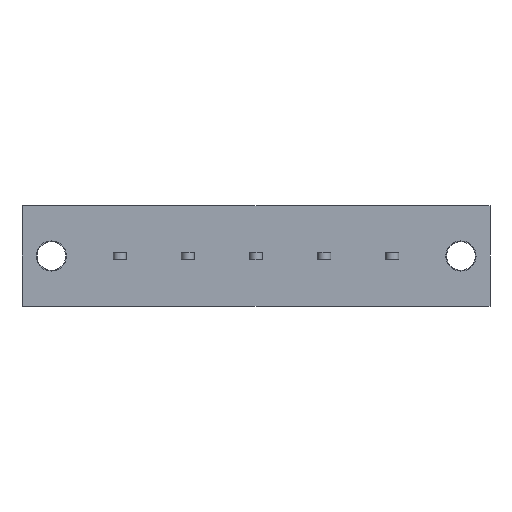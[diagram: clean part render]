
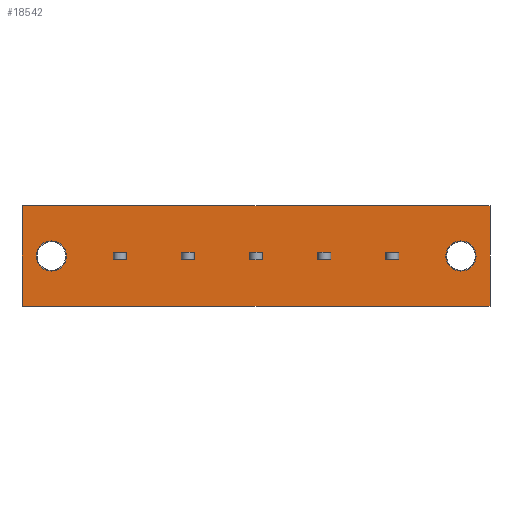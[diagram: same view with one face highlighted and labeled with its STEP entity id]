
A CAD part, front view. The second image highlights one B-rep face of the part: STEP entity #18542.
In plain terms, the highlighted planar face has unit normal (0, -1, 0).
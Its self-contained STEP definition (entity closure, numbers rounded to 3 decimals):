
#969=CIRCLE('',#19720,2.1);
#1014=CIRCLE('',#19888,2.1);
#1055=VERTEX_POINT('',#24074);
#1056=VERTEX_POINT('',#24075);
#1059=VERTEX_POINT('',#24083);
#1092=VERTEX_POINT('',#24167);
#1233=VERTEX_POINT('',#24613);
#1234=VERTEX_POINT('',#24614);
#1237=VERTEX_POINT('',#24622);
#1270=VERTEX_POINT('',#24706);
#1401=VERTEX_POINT('',#25133);
#1402=VERTEX_POINT('',#25134);
#1405=VERTEX_POINT('',#25142);
#1438=VERTEX_POINT('',#25226);
#1824=VERTEX_POINT('',#26465);
#1825=VERTEX_POINT('',#26466);
#1828=VERTEX_POINT('',#26474);
#1840=VERTEX_POINT('',#26513);
#2316=VERTEX_POINT('',#28416);
#2317=VERTEX_POINT('',#28418);
#2321=VERTEX_POINT('',#28428);
#2325=VERTEX_POINT('',#28458);
#2326=VERTEX_POINT('',#28459);
#2329=VERTEX_POINT('',#28467);
#2341=VERTEX_POINT('',#28506);
#2513=VERTEX_POINT('',#28995);
#2514=VERTEX_POINT('',#29034);
#2516=VERTEX_POINT('',#29040);
#2926=VECTOR('',#20116,1.);
#2930=VECTOR('',#20121,1.);
#2965=VECTOR('',#20183,1.);
#2967=VECTOR('',#20186,1.);
#3099=VECTOR('',#20528,1.);
#3103=VECTOR('',#20533,1.);
#3138=VECTOR('',#20595,1.);
#3140=VECTOR('',#20598,1.);
#3267=VECTOR('',#20927,1.);
#3271=VECTOR('',#20932,1.);
#3306=VECTOR('',#20994,1.);
#3308=VECTOR('',#20997,1.);
#3703=VECTOR('',#21910,1.);
#3706=VECTOR('',#21916,1.);
#3722=VECTOR('',#21949,1.);
#3725=VECTOR('',#21957,1.);
#4270=VECTOR('',#22832,1.);
#4287=VECTOR('',#22872,1.);
#4290=VECTOR('',#22878,1.);
#4306=VECTOR('',#22911,1.);
#4309=VECTOR('',#22919,1.);
#4501=VECTOR('',#23277,1.);
#4520=VECTOR('',#23322,1.);
#4523=VECTOR('',#23328,1.);
#4997=LINE('',#24073,#2926);
#5001=LINE('',#24082,#2930);
#5036=LINE('',#24166,#2965);
#5038=LINE('',#24170,#2967);
#5170=LINE('',#24612,#3099);
#5174=LINE('',#24621,#3103);
#5209=LINE('',#24705,#3138);
#5211=LINE('',#24709,#3140);
#5338=LINE('',#25132,#3267);
#5342=LINE('',#25141,#3271);
#5377=LINE('',#25225,#3306);
#5379=LINE('',#25229,#3308);
#5774=LINE('',#26464,#3703);
#5777=LINE('',#26473,#3706);
#5793=LINE('',#26512,#3722);
#5796=LINE('',#26520,#3725);
#6341=LINE('',#28417,#4270);
#6358=LINE('',#28457,#4287);
#6361=LINE('',#28466,#4290);
#6377=LINE('',#28505,#4306);
#6380=LINE('',#28513,#4309);
#6572=LINE('',#28996,#4501);
#6591=LINE('',#29033,#4520);
#6594=LINE('',#29041,#4523);
#7070=EDGE_CURVE('',#1055,#1056,#4997,.T.);
#7074=EDGE_CURVE('',#1059,#1055,#5001,.T.);
#7119=EDGE_CURVE('',#1092,#1059,#5036,.T.);
#7121=EDGE_CURVE('',#1056,#1092,#5038,.T.);
#7322=EDGE_CURVE('',#1233,#1234,#5170,.T.);
#7326=EDGE_CURVE('',#1237,#1233,#5174,.T.);
#7371=EDGE_CURVE('',#1270,#1237,#5209,.T.);
#7373=EDGE_CURVE('',#1234,#1270,#5211,.T.);
#7565=EDGE_CURVE('',#1401,#1402,#5338,.T.);
#7569=EDGE_CURVE('',#1405,#1401,#5342,.T.);
#7614=EDGE_CURVE('',#1438,#1405,#5377,.T.);
#7616=EDGE_CURVE('',#1402,#1438,#5379,.T.);
#8197=EDGE_CURVE('',#1824,#1825,#5774,.T.);
#8201=EDGE_CURVE('',#1825,#1828,#5777,.T.);
#8225=EDGE_CURVE('',#1828,#1840,#5793,.T.);
#8229=EDGE_CURVE('',#1840,#1824,#5796,.T.);
#8932=EDGE_CURVE('',#2317,#2316,#6341,.T.);
#8937=EDGE_CURVE('',#2321,#2321,#969,.T.);
#8952=EDGE_CURVE('',#2325,#2326,#6358,.T.);
#8956=EDGE_CURVE('',#2326,#2329,#6361,.T.);
#8980=EDGE_CURVE('',#2329,#2341,#6377,.T.);
#8984=EDGE_CURVE('',#2341,#2325,#6380,.T.);
#9243=EDGE_CURVE('',#2316,#2513,#6572,.T.);
#9262=EDGE_CURVE('',#2317,#2514,#6591,.T.);
#9265=EDGE_CURVE('',#2516,#2516,#1014,.T.);
#9266=EDGE_CURVE('',#2513,#2514,#6594,.T.);
#14206=ORIENTED_EDGE('',*,*,#7074,.T.);
#14207=ORIENTED_EDGE('',*,*,#7070,.T.);
#14208=ORIENTED_EDGE('',*,*,#7121,.T.);
#14209=ORIENTED_EDGE('',*,*,#7119,.T.);
#14210=ORIENTED_EDGE('',*,*,#7326,.T.);
#14211=ORIENTED_EDGE('',*,*,#7322,.T.);
#14212=ORIENTED_EDGE('',*,*,#7373,.T.);
#14213=ORIENTED_EDGE('',*,*,#7371,.T.);
#14214=ORIENTED_EDGE('',*,*,#7569,.T.);
#14215=ORIENTED_EDGE('',*,*,#7565,.T.);
#14216=ORIENTED_EDGE('',*,*,#7616,.T.);
#14217=ORIENTED_EDGE('',*,*,#7614,.T.);
#14218=ORIENTED_EDGE('',*,*,#8225,.F.);
#14219=ORIENTED_EDGE('',*,*,#8201,.F.);
#14220=ORIENTED_EDGE('',*,*,#8197,.F.);
#14221=ORIENTED_EDGE('',*,*,#8229,.F.);
#14222=ORIENTED_EDGE('',*,*,#8980,.F.);
#14223=ORIENTED_EDGE('',*,*,#8956,.F.);
#14224=ORIENTED_EDGE('',*,*,#8952,.F.);
#14225=ORIENTED_EDGE('',*,*,#8984,.F.);
#14226=ORIENTED_EDGE('',*,*,#8937,.T.);
#14227=ORIENTED_EDGE('',*,*,#9265,.T.);
#14228=ORIENTED_EDGE('',*,*,#9243,.T.);
#14229=ORIENTED_EDGE('',*,*,#9266,.T.);
#14230=ORIENTED_EDGE('',*,*,#9262,.F.);
#14231=ORIENTED_EDGE('',*,*,#8932,.T.);
#16346=EDGE_LOOP('',(#14206,#14207,#14208,#14209));
#16347=EDGE_LOOP('',(#14210,#14211,#14212,#14213));
#16348=EDGE_LOOP('',(#14214,#14215,#14216,#14217));
#16349=EDGE_LOOP('',(#14218,#14219,#14220,#14221));
#16350=EDGE_LOOP('',(#14222,#14223,#14224,#14225));
#16351=EDGE_LOOP('',(#14226));
#16352=EDGE_LOOP('',(#14227));
#16353=EDGE_LOOP('',(#14228,#14229,#14230,#14231));
#17480=FACE_BOUND('',#16346,.T.);
#17481=FACE_BOUND('',#16347,.T.);
#17482=FACE_BOUND('',#16348,.T.);
#17483=FACE_BOUND('',#16349,.T.);
#17484=FACE_BOUND('',#16350,.T.);
#17485=FACE_BOUND('',#16351,.T.);
#17486=FACE_BOUND('',#16352,.T.);
#17487=FACE_BOUND('',#16353,.T.);
#18542=ADVANCED_FACE('',(#17480,#17481,#17482,#17483,#17484,#17485,#17486,
#17487),#31277,.T.);
#19720=AXIS2_PLACEMENT_3D('',#28427,#22840,#22841);
#19887=AXIS2_PLACEMENT_3D('',#29038,#23325,$);
#19888=AXIS2_PLACEMENT_3D('',#29039,#23326,#23327);
#20116=DIRECTION('',(0.,0.,1.));
#20121=DIRECTION('',(-1.,0.,0.));
#20183=DIRECTION('',(0.,0.,-1.));
#20186=DIRECTION('',(1.,0.,0.));
#20528=DIRECTION('',(0.,0.,1.));
#20533=DIRECTION('',(-1.,0.,0.));
#20595=DIRECTION('',(0.,0.,-1.));
#20598=DIRECTION('',(1.,0.,0.));
#20927=DIRECTION('',(0.,0.,1.));
#20932=DIRECTION('',(-1.,0.,0.));
#20994=DIRECTION('',(0.,0.,-1.));
#20997=DIRECTION('',(1.,0.,0.));
#21910=DIRECTION('',(-1.,0.,0.));
#21916=DIRECTION('',(0.,0.,-1.));
#21949=DIRECTION('',(1.,0.,0.));
#21957=DIRECTION('',(0.,0.,1.));
#22832=DIRECTION('',(0.,0.,-1.));
#22840=DIRECTION('',(0.,1.,0.));
#22841=DIRECTION('',(2.1,0.,0.));
#22872=DIRECTION('',(-1.,0.,0.));
#22878=DIRECTION('',(0.,0.,-1.));
#22911=DIRECTION('',(1.,0.,0.));
#22919=DIRECTION('',(0.,0.,1.));
#23277=DIRECTION('',(1.,0.,0.));
#23322=DIRECTION('',(1.,0.,0.));
#23325=DIRECTION('',(0.,-1.,0.));
#23326=DIRECTION('',(0.,1.,0.));
#23327=DIRECTION('',(2.1,0.,0.));
#23328=DIRECTION('',(0.,0.,1.));
#24073=CARTESIAN_POINT('',(50.7,0.,-1.75));
#24074=CARTESIAN_POINT('',(50.7,0.,-0.5));
#24075=CARTESIAN_POINT('',(50.7,0.,0.5));
#24082=CARTESIAN_POINT('',(53.625,0.,-0.5));
#24083=CARTESIAN_POINT('',(52.5,0.,-0.5));
#24166=CARTESIAN_POINT('',(52.5,0.,-1.75));
#24167=CARTESIAN_POINT('',(52.5,0.,0.5));
#24170=CARTESIAN_POINT('',(53.625,0.,0.5));
#24612=CARTESIAN_POINT('',(41.2,0.,-1.75));
#24613=CARTESIAN_POINT('',(41.2,0.,-0.5));
#24614=CARTESIAN_POINT('',(41.2,0.,0.5));
#24621=CARTESIAN_POINT('',(21.05,0.,-0.5));
#24622=CARTESIAN_POINT('',(43.,0.,-0.5));
#24705=CARTESIAN_POINT('',(43.,0.,-1.75));
#24706=CARTESIAN_POINT('',(43.,0.,0.5));
#24709=CARTESIAN_POINT('',(21.05,0.,0.5));
#25132=CARTESIAN_POINT('',(31.7,0.,-1.75));
#25133=CARTESIAN_POINT('',(31.7,0.,-0.5));
#25134=CARTESIAN_POINT('',(31.7,0.,0.5));
#25141=CARTESIAN_POINT('',(16.3,0.,-0.5));
#25142=CARTESIAN_POINT('',(33.5,0.,-0.5));
#25225=CARTESIAN_POINT('',(33.5,0.,-1.75));
#25226=CARTESIAN_POINT('',(33.5,0.,0.5));
#25229=CARTESIAN_POINT('',(16.3,0.,0.5));
#26464=CARTESIAN_POINT('',(21.075,0.,0.5));
#26465=CARTESIAN_POINT('',(24.,0.,0.5));
#26466=CARTESIAN_POINT('',(22.2,0.,0.5));
#26473=CARTESIAN_POINT('',(22.2,0.,-1.75));
#26474=CARTESIAN_POINT('',(22.2,0.,-0.5));
#26512=CARTESIAN_POINT('',(21.075,0.,-0.5));
#26513=CARTESIAN_POINT('',(24.,0.,-0.5));
#26520=CARTESIAN_POINT('',(24.,0.,-1.75));
#28416=CARTESIAN_POINT('',(0.,0.,-7.));
#28417=CARTESIAN_POINT('',(0.,0.,7.));
#28418=CARTESIAN_POINT('',(0.,0.,7.));
#28427=CARTESIAN_POINT('',(4.1,0.,0.));
#28428=CARTESIAN_POINT('',(2.,0.,0.));
#28457=CARTESIAN_POINT('',(11.575,0.,0.5));
#28458=CARTESIAN_POINT('',(14.5,0.,0.5));
#28459=CARTESIAN_POINT('',(12.7,0.,0.5));
#28466=CARTESIAN_POINT('',(12.7,0.,-1.75));
#28467=CARTESIAN_POINT('',(12.7,0.,-0.5));
#28505=CARTESIAN_POINT('',(11.575,0.,-0.5));
#28506=CARTESIAN_POINT('',(14.5,0.,-0.5));
#28513=CARTESIAN_POINT('',(14.5,0.,-1.75));
#28995=CARTESIAN_POINT('',(65.2,0.,-7.));
#28996=CARTESIAN_POINT('',(55.65,0.,-7.));
#29033=CARTESIAN_POINT('',(0.,0.,7.));
#29034=CARTESIAN_POINT('',(65.2,0.,7.));
#29038=CARTESIAN_POINT('',(55.65,0.,0.));
#29039=CARTESIAN_POINT('',(61.15,0.,0.));
#29040=CARTESIAN_POINT('',(59.05,0.,0.));
#29041=CARTESIAN_POINT('',(65.2,0.,7.));
#31277=PLANE('',#19887);
